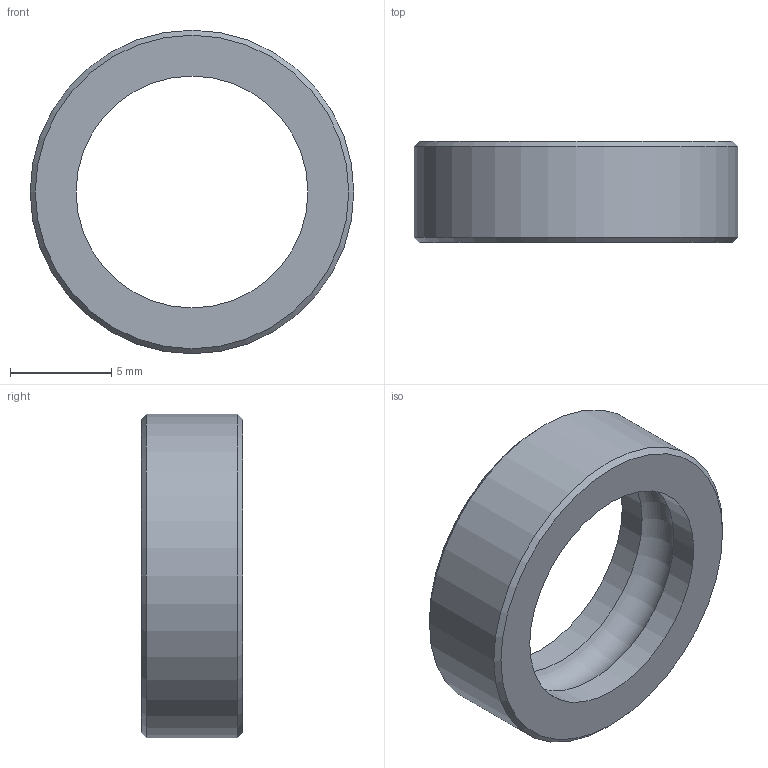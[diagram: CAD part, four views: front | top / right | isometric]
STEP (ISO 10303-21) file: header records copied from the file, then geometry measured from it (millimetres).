
FILE_DESCRIPTION(/* description */ ('STEP AP242 Edition 2','CAx-IF Rec.Pracs.---Representation and Presentation of Product Manufacturing Information (PMI)---4.0---2014-10-13','CAx-IF Rec.Pracs.---3D Tessellated Geometry---0.4---2014-09-14','2;1','CAx-IF Rec.Pracs.---User Defined Attributes---1.5---2016-08-15'),/* implementation_level */ '2;1');
FILE_NAME(/* name */ 'Assembly V2 - 6153K113_Stainless Steel Ball Bearing (2)',/* time_stamp */ '2026-02-05T22:44:35Z',/* author */ (''),/* organization */ (''),/* preprocessor_version */ 'ST-DEVELOPER v20',/* originating_system */ 'ONSHAPE BY PTC INC, 1.210',/* authorisation */ ' ');
FILE_SCHEMA (('AP242_MANAGED_MODEL_BASED_3D_ENGINEERING_MIM_LF { 1 0 10303 442 3 1 4 }'));
Length unit declared in the file: metre
Products named in the file (1): 6153K113_Stainless Steel Ball Bearing
Bounding box: 16 x 5 x 16 mm (x, y, z)
Volume: 441.6 mm3; surface area: 641.8 mm2
Topology: 1 solids, 1 shells, 8 faces, 14 edges, 8 vertices
Faces by surface type: cylinder 3, plane 2, cone 2, torus 1
Full cylindrical faces by diameter (mm): 11.467 x2, 16 x1
Entity records: 190 total; most frequent: DIRECTION 34, CARTESIAN_POINT 25, AXIS2_PLACEMENT_3D 17, ORIENTED_EDGE 16, EDGE_LOOP 16, FACE_BOUND 16, EDGE_CURVE 8, VERTEX_POINT 8
